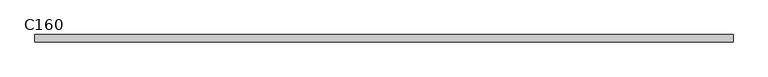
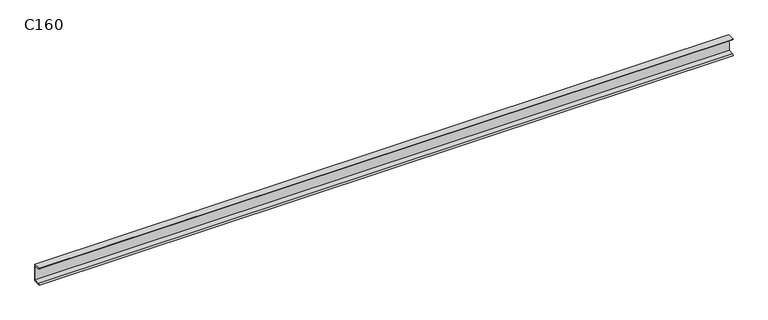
"""IFC4 building model written with IfcOpenShell, lengths in millimetres: beam geometry, RPLN C - Ceowniki normalne : C160."""

from ifc_helpers import new_model, si_unit, point, frame, frame_2d, origin, place, context, project, spatial, polyline, circle_curve, trimmed, segment, composite_curve, outline, extrude, source, transform, mapped, element, save


def c160_19cece36(model_context):
    return source(origin(), model_context, "Body", "SweptSolid", [
        extrude(outline(composite_curve([segment(polyline([(18.4, 80.0), (18.4, -80.0), (-46.6, -80.0)]), True, "CONTINUOUS"), segment(trimmed(circle_curve(frame_2d((-36.1, -80.0)), 10.5), [point((-46.6, -80.0))], [point((-36.1, -69.5))], False, "CARTESIAN"), True, "CONTINUOUS"), segment(polyline([(-36.1, -69.5), (10.9, -62.0559313), (10.9, 62.0559313), (-36.1, 69.5)]), True, "CONTINUOUS"), segment(trimmed(circle_curve(frame_2d((-36.1, 80.0)), 10.5), [point((-36.1, 69.5))], [point((-46.6, 80.0))], False, "CARTESIAN"), True, "CONTINUOUS"), segment(polyline([(-46.6, 80.0), (18.4, 80.0)]), True, "CONTINUOUS")], self_intersect=False)), frame((-3148.1164529, 0.0, 0.0), z_axis=(1.0, 0.0, 0.0), x_axis=(0.0, 1.0, 0.0)), (0.0, 0.0, 1.0), 6285.298655),
    ])


if __name__ == "__main__":
    model = new_model("IFC4")
    model_context = context("Model", 3, world=origin())
    ifc_project = project(units=[si_unit("LENGTHUNIT", "METRE", prefix="MILLI")], contexts=[model_context])
    site = spatial("IfcSite", under=ifc_project)
    building = spatial("IfcBuilding", under=site)
    placement = place(None, origin())
    c160_shape = c160_19cece36(model_context)
    element("IfcBeam", 1, ObjectType="RPLN C - Ceowniki normalne : C160", at=placement, inside=building, context=model_context, shape_type="MappedRepresentation", body=[
        mapped(c160_shape, transform((0.0, 0.0, 0.0), x_axis=(1.0, 0.0, 0.0), y_axis=(0.0, 1.0, 0.0), z_axis=(0.0, 0.0, 1.0))),
    ])
    save(model, "model.ifc")
